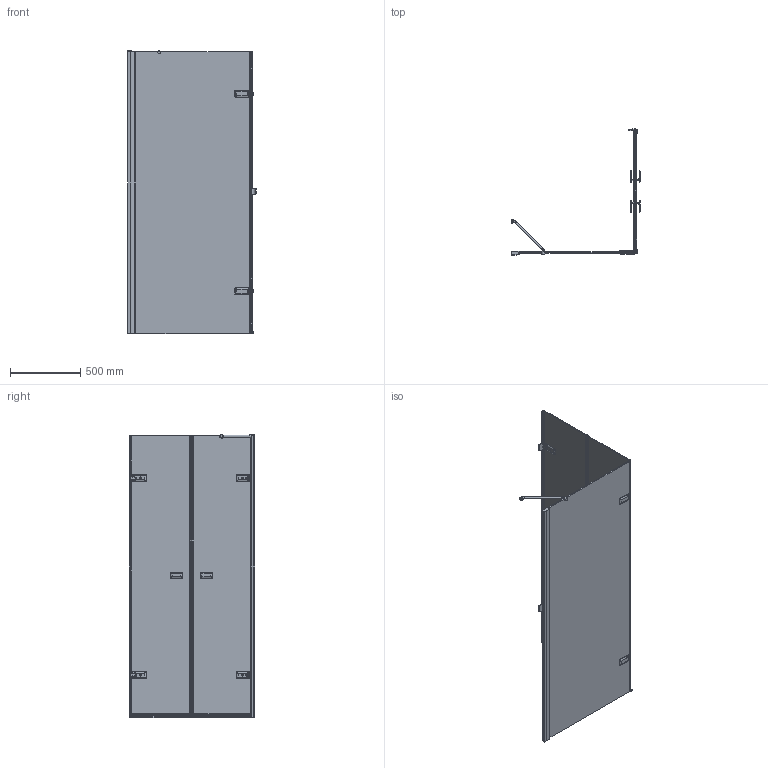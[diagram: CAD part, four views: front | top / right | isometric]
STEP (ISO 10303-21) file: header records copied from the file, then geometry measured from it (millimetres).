
FILE_DESCRIPTION(/* description */ (''),/* implementation_level */ '2;1');
FILE_NAME(/* name */ 'E:\Работа\Сергей\Душевые кабинки\! Работа\!!!\TREND SQUARE GK-863KPTWO\TREND SQUARE GK-863KPTWO правая модель\TREND SQUARE GK-863KPTWO ПРАВАЯ-3D.stp',/* time_stamp */ '2017-11-05T17:46:49+03:00',/* author */ ('PC'),/* organization */ (''),/* preprocessor_version */ 'ST-DEVELOPER v15.2',/* originating_system */ 'Autodesk Inventor 2014',/* authorisation */ '');
FILE_SCHEMA (('AUTOMOTIVE_DESIGN { 1 0 10303 214 3 1 1 }'));
Products named in the file (1): TREND SQUARE GK-863KPTWO ПРАВАЯ-
3D
Bounding box: 912.74 x 892.8 x 2009.49 mm (x, y, z)
Volume: 27291717.9 mm3; surface area: 7641684.4 mm2
Topology: 9 solids, 17 shells, 1970 faces, 5270 edges, 3273 vertices
Faces by surface type: plane 1170, cylinder 530, bspline 190, torus 47, cone 20, sphere 13
Full cylindrical faces by diameter (mm): 6 x2, 9 x8, 12 x2, 13 x2, 15 x1, 20 x2, 26 x1
Entity records: 80114 total; most frequent: CARTESIAN_POINT 29799, ORIENTED_EDGE 10310, DIRECTION 9797, EDGE_CURVE 5153, LINE 3349, VECTOR 3349, VERTEX_POINT 3257, AXIS2_PLACEMENT_3D 3224
